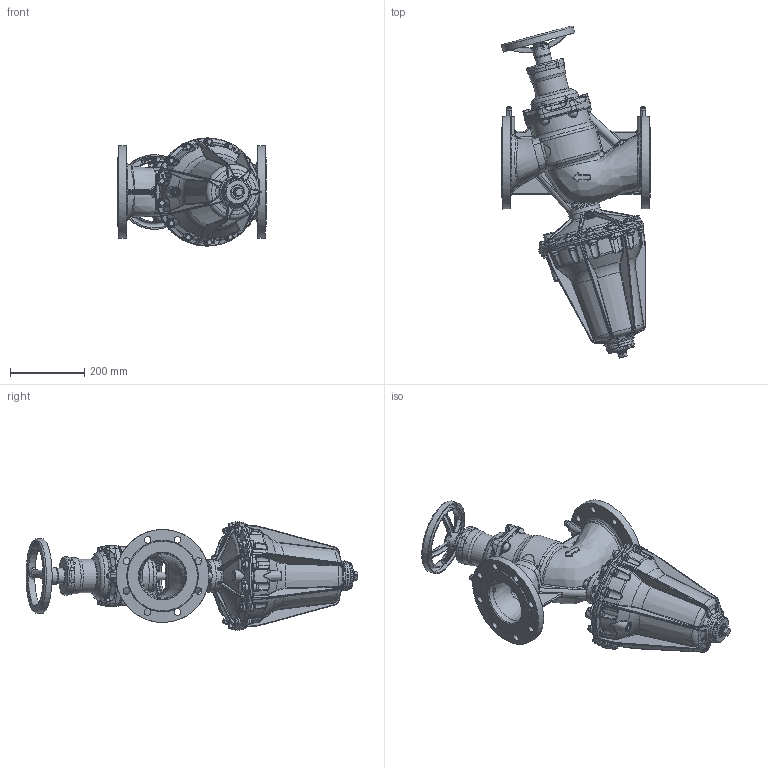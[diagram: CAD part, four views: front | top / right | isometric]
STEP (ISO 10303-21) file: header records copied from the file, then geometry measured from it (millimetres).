
FILE_DESCRIPTION (( 'STEP AP203' ), '1' );
FILE_NAME ('EKOFLUX.M_DN125.STEP', '2013-01-18T10:30:35', ( 'luca.saino' ), ( 'Hewlett-Packard Company' ), 'SwSTEP 2.0', 'SolidWorks 2012', '' );
FILE_SCHEMA (( 'CONFIG_CONTROL_DESIGN' ));
Length unit declared in the file: millimetre
Products named in the file (1): EKOFLUX.M_DN125
Bounding box: 400.07 x 892.84 x 291 mm (x, y, z)
Volume: 17948871.4 mm3; surface area: 1184377.8 mm2
Topology: 1 solids, 80 shells, 4029 faces, 9557 edges, 5653 vertices
Faces by surface type: bspline 1658, plane 892, cone 598, cylinder 557, torus 289, sphere 35
Full cylindrical faces by diameter (mm): 4 x2, 5 x2, 5.71 x4, 6.5 x2, 6.75 x3, 8 x11, 8.116 x1, 8.2 x4, 8.5 x24, 10 x8, 11 x6, 11.44 x2, 14.96 x1, 15 x2, 16 x2, 18 x16, 20 x1, 21 x1, 22 x1, 23.9 x1, 25 x2, 25.1 x1, 32 x1, 36 x1, 41 x1, 42 x1, 45 x1, 70 x1, 73 x1, 77 x1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
Entity records: 209149 total; most frequent: CARTESIAN_POINT 132876, ORIENTED_EDGE 18174, DIRECTION 12206, EDGE_CURVE 9087, VERTEX_POINT 5491, AXIS2_PLACEMENT_3D 5246, EDGE_LOOP 4374, B_SPLINE_CURVE_WITH_KNOTS 4232
